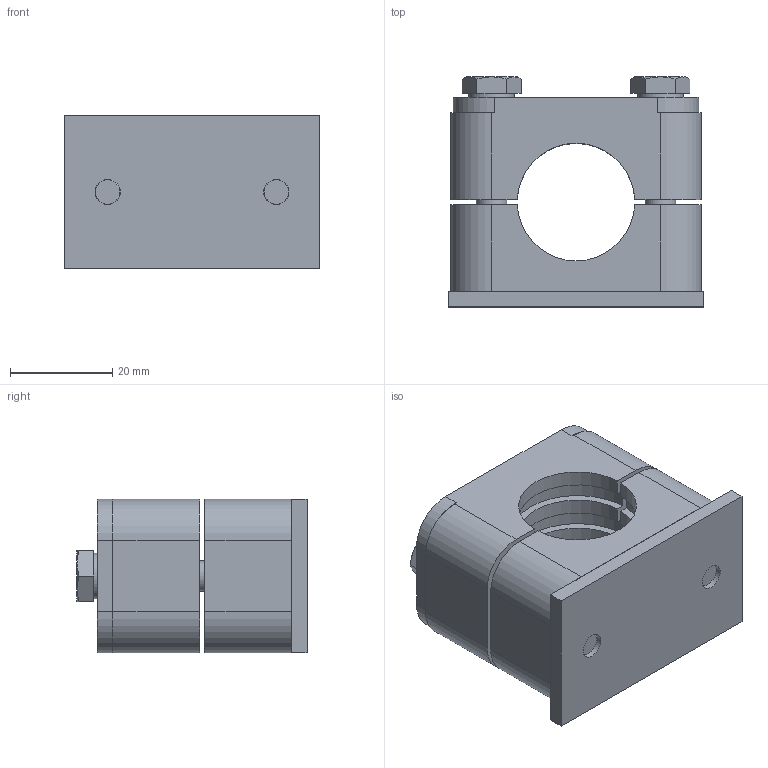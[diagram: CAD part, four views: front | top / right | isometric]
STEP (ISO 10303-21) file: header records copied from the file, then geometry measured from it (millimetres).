
FILE_DESCRIPTION(/* description */ ('STEP AP203'),/* implementation_level */ '2;1');
FILE_NAME(/* name */ 'E40604',/* time_stamp */ '2024-10-25T10:06:19+02:00',/* author */ ('License CC BY-ND 4.0'),/* organization */ ('CADENAS'),/* preprocessor_version */ 'ST-DEVELOPER v19.3',/* originating_system */ 'PARTsolutions',/* authorisation */ ' ');
FILE_SCHEMA (('CONFIG_CONTROL_DESIGN'));
Length unit declared in the file: millimetre
Products named in the file (5): E40604; P_MZ_Z_1875_P1; P_MZ_Z_1875_P2; P_MZ_Z_1875_P3; P_MZ_Z_1926_P4
Assembly tree (5 placements, depth 2):
  E40604
    P_MZ_Z_1875_P1
    P_MZ_Z_1875_P2
    P_MZ_Z_1875_P3  x2
    P_MZ_Z_1926_P4
Bounding box: 50 x 45 x 30 mm (x, y, z)
Volume: 36886 mm3; surface area: 23326.7 mm2
Topology: 5 solids, 5 shells, 295 faces, 770 edges, 508 vertices
Faces by surface type: cylinder 147, plane 130, cone 16, torus 2
Full cylindrical faces by diameter (mm): 4.917 x2, 6 x2, 6.6 x4, 8.9 x2, 12 x2
Entity records: 8763 total; most frequent: CARTESIAN_POINT 1634, DIRECTION 1508, ORIENTED_EDGE 1430, EDGE_CURVE 715, AXIS2_PLACEMENT_3D 561, VERTEX_POINT 483, LINE 386, VECTOR 386
